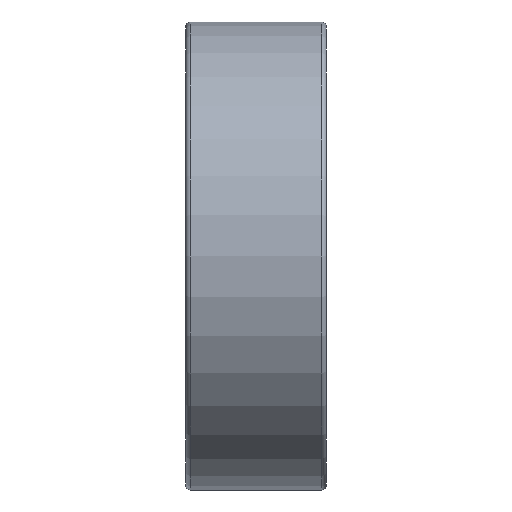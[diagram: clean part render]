
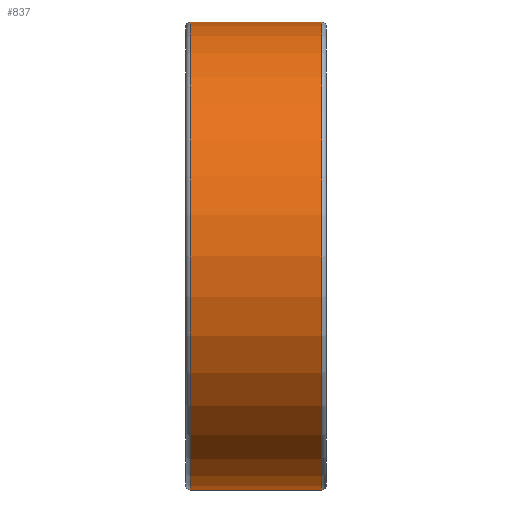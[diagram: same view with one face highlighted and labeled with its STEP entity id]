
A CAD part, front view. The second image highlights one B-rep face of the part: STEP entity #837.
In plain terms, the highlighted cylindrical face has radius 15 mm (diameter 30 mm), a full revolution.
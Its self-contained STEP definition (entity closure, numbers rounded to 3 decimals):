
#144=CYLINDRICAL_SURFACE($,#975,15.);
#159=FACE_BOUND($,#272,.T.);
#210=FACE_OUTER_BOUND($,#271,.T.);
#271=EDGE_LOOP($,(#773));
#272=EDGE_LOOP($,(#774));
#358=CIRCLE($,#973,15.);
#360=CIRCLE($,#976,15.);
#440=VERTEX_POINT($,#2198);
#442=VERTEX_POINT($,#2203);
#553=EDGE_CURVE($,#440,#440,#358,.T.);
#555=EDGE_CURVE($,#442,#442,#360,.T.);
#773=ORIENTED_EDGE($,*,*,#555,.F.);
#774=ORIENTED_EDGE($,*,*,#553,.T.);
#837=ADVANCED_FACE($,(#210,#159),#144,.T.);
#973=AXIS2_PLACEMENT_3D($,#2199,#1243,#1244);
#975=AXIS2_PLACEMENT_3D($,#2202,#1247,#1248);
#976=AXIS2_PLACEMENT_3D($,#2204,#1249,#1250);
#1243=DIRECTION('center_axis',(1.,0.,0.));
#1244=DIRECTION('ref_axis',(0.,0.,-1.));
#1247=DIRECTION('center_axis',(1.,0.,0.));
#1248=DIRECTION('ref_axis',(0.,1.,0.));
#1249=DIRECTION('center_axis',(1.,0.,0.));
#1250=DIRECTION('ref_axis',(0.,0.,-1.));
#2198=CARTESIAN_POINT('',(-4.2,15.,0.));
#2199=CARTESIAN_POINT('Origin',(-4.2,0.,0.));
#2202=CARTESIAN_POINT('Origin',(0.,0.,0.));
#2203=CARTESIAN_POINT('',(4.2,15.,0.));
#2204=CARTESIAN_POINT('Origin',(4.2,0.,0.));
